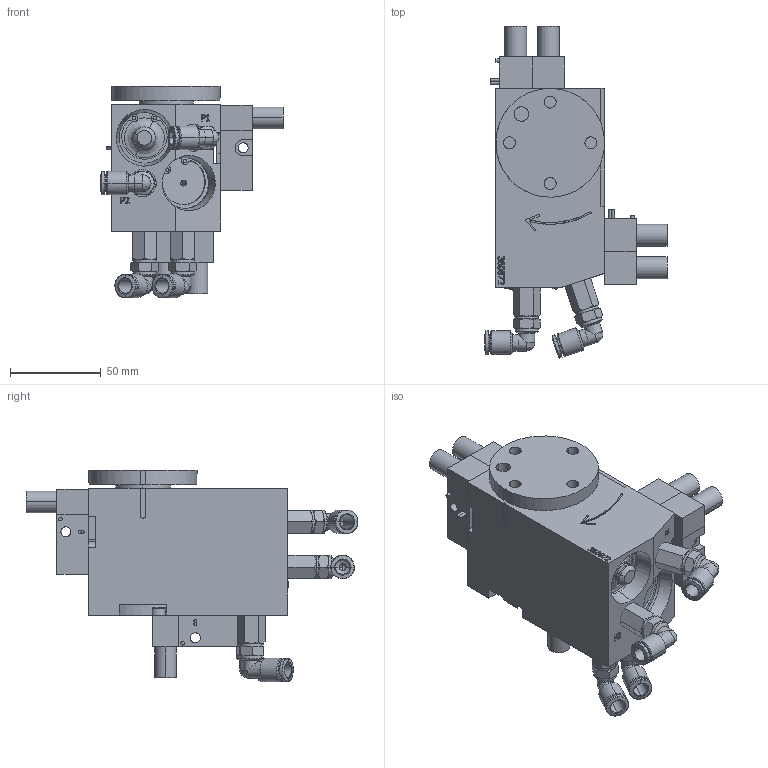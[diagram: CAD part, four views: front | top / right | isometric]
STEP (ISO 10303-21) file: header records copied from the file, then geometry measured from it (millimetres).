
FILE_DESCRIPTION(('CATIA V5 STEP Exchange'),'2;1');
FILE_NAME('C:\Users\richert\Desktop\Müll\Pos.3\RT_4_C_TUENKERS.stp','2014-02-21T08:21:34+00:00',('none'),('none'),'CATIA Version 5 Release 19 SP 9 (IN-10)','CATIA V5 STEP AP203','none');
FILE_SCHEMA(('CONFIG_CONTROL_DESIGN'));
Products named in the file (1): RT_4_C_TUENKERS
Bounding box: 100.5 x 183.25 x 116.79 mm (x, y, z)
Volume: 446342.2 mm3; surface area: 142371.2 mm2
Topology: 38 solids, 38 shells, 5451 faces, 14432 edges, 9439 vertices
Faces by surface type: bspline 5450, plane 1
Entity records: 179245 total; most frequent: CARTESIAN_POINT 91455, ORIENTED_EDGE 28624, EDGE_CURVE 14312, B_SPLINE_CURVE_WITH_KNOTS 13212, VERTEX_POINT 9431, EDGE_LOOP 6041, ADVANCED_FACE 5451, FACE_OUTER_BOUND 5451
